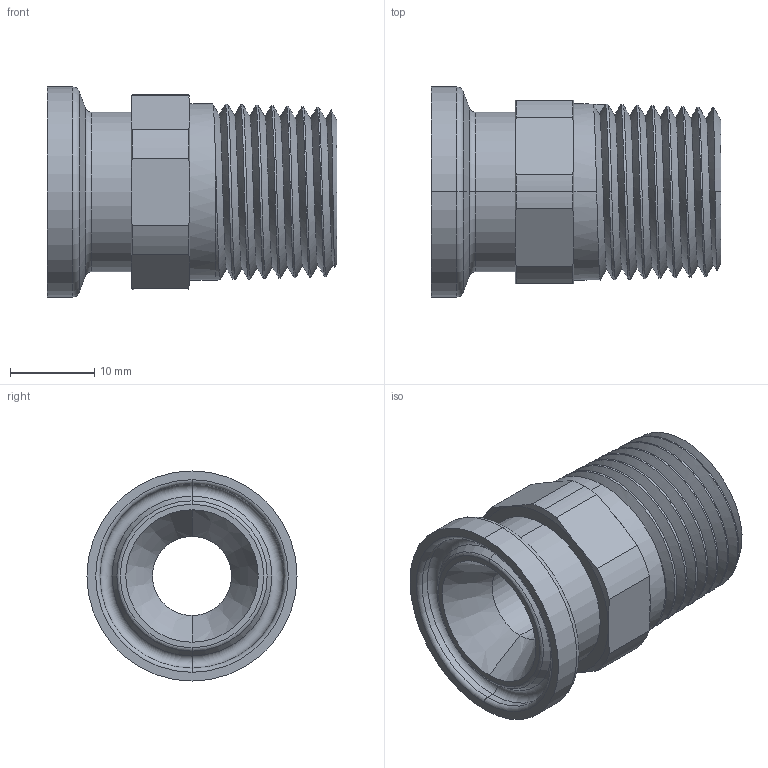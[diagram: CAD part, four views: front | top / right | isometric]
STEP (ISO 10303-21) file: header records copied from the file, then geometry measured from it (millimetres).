
FILE_DESCRIPTION (( 'STEP AP214' ), '1' );
FILE_NAME ('A.CFBM.075.050.STEP', '2019-09-18T10:42:45', ( '' ), ( '' ), 'SwSTEP 2.0', 'SolidWorks 2019', '' );
FILE_SCHEMA (( 'AUTOMOTIVE_DESIGN' ));
Length unit declared in the file: millimetre
Products named in the file (1): A.CFBM.075.050
Bounding box: 34.5 x 25 x 25 mm (x, y, z)
Volume: 8109.7 mm3; surface area: 4984.5 mm2
Topology: 1 solids, 1 shells, 81 faces, 194 edges, 118 vertices
Faces by surface type: cone 40, cylinder 17, plane 12, torus 10, bspline 2
Entity records: 6097 total; most frequent: CARTESIAN_POINT 4254, ORIENTED_EDGE 388, DIRECTION 368, EDGE_CURVE 194, AXIS2_PLACEMENT_3D 158, VERTEX_POINT 118, EDGE_LOOP 86, FACE_OUTER_BOUND 81
